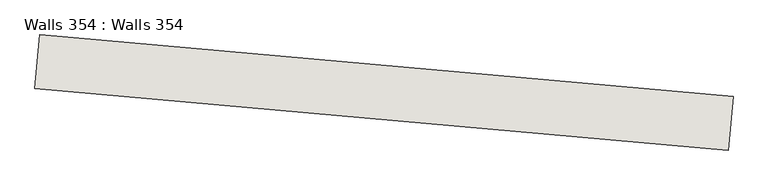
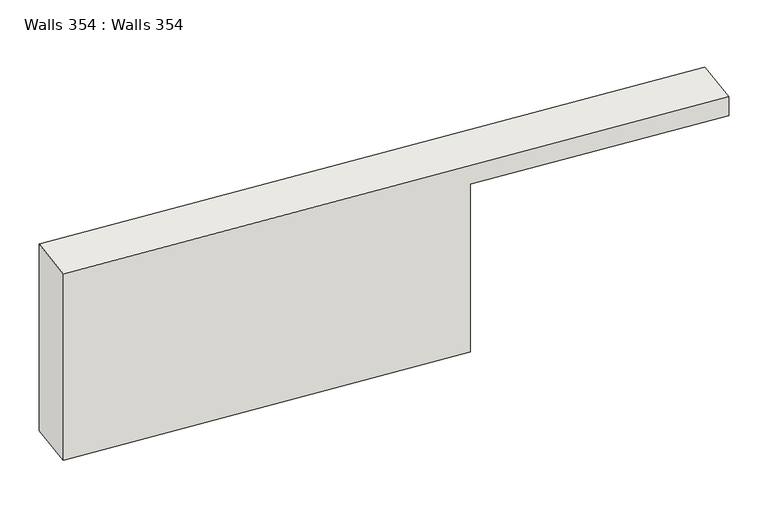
"""IFC4 building model written with IfcOpenShell, lengths in millimetres: wall geometry, Walls 354 : Walls 354."""

from ifc_helpers import new_model, si_unit, frame, origin, place, context, project, spatial, polyline, outline, extrude, source, transform, mapped, element, save


def walls_354_walls_354_44c4da3a(model_context):
    return source(origin(), model_context, "Body", "SweptSolid", [
        extrude(outline(polyline([(3150.0000001, 0.0), (3150.0000001, -1600.0), (0.0, -1600.0), (0.0, -160.0), (-2000.0, -160.0), (-2000.0, 0.0), (3150.0000001, 0.0)])), frame((-739263.3003329, -413220.4424887, 636460.0), z_axis=(0.08873732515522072, 0.9960550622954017, 0.0), x_axis=(-0.9960550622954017, 0.08873732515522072, 0.0)), (0.0, 0.0, 1.0), 400.0),
    ])


if __name__ == "__main__":
    model = new_model("IFC4")
    model_context = context("Model", 3, world=origin())
    ifc_project = project(units=[si_unit("LENGTHUNIT", "METRE", prefix="MILLI")], contexts=[model_context])
    site = spatial("IfcSite", under=ifc_project)
    building = spatial("IfcBuilding", under=site)
    placement = place(None, origin())
    walls_354_walls_354_shape = walls_354_walls_354_44c4da3a(model_context)
    element("IfcWall", 1, ObjectType="Walls 354 : Walls 354", at=placement, inside=building, context=model_context, shape_type="MappedRepresentation", body=[
        mapped(walls_354_walls_354_shape, transform((0.0, 0.0, 0.0), x_axis=(1.0, 0.0, 0.0), y_axis=(0.0, 1.0, 0.0), z_axis=(0.0, 0.0, 1.0))),
    ])
    save(model, "model.ifc")
